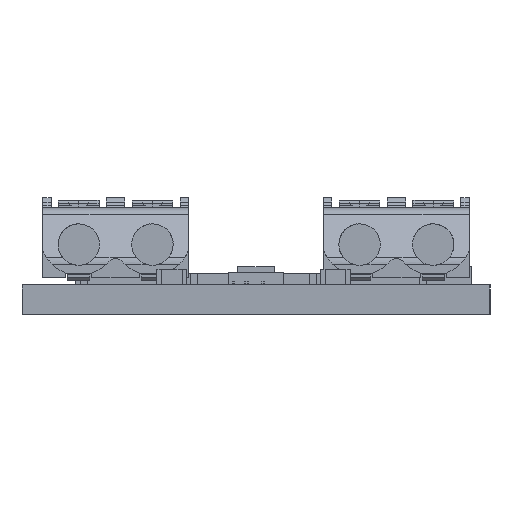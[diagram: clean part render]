
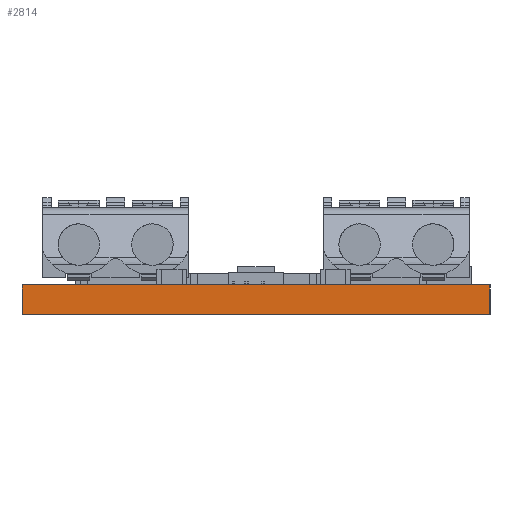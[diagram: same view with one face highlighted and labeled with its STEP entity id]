
A CAD part, left-side view. The second image highlights one B-rep face of the part: STEP entity #2814.
In plain terms, the highlighted planar face has unit normal (-1, 0, 0).
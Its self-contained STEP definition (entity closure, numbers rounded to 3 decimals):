
#555=DIRECTION('',(0.,-1.,0.));
#556=VECTOR('',#555,25.4);
#557=CARTESIAN_POINT('',(-142.875,12.7,0.));
#558=LINE('',#557,#556);
#786=DIRECTION('',(0.,0.,1.));
#787=VECTOR('',#786,1.6);
#788=CARTESIAN_POINT('',(-142.875,-12.7,0.));
#789=LINE('',#788,#787);
#793=DIRECTION('',(0.,0.,1.));
#794=VECTOR('',#793,1.6);
#795=CARTESIAN_POINT('',(-142.875,12.7,0.));
#796=LINE('',#795,#794);
#1451=DIRECTION('',(0.,-1.,0.));
#1452=VECTOR('',#1451,25.4);
#1453=CARTESIAN_POINT('',(-142.875,12.7,1.6));
#1454=LINE('',#1453,#1452);
#2144=CARTESIAN_POINT('',(-142.875,12.7,0.));
#2145=VERTEX_POINT('',#2144);
#2146=CARTESIAN_POINT('',(-142.875,-12.7,0.));
#2147=VERTEX_POINT('',#2146);
#2332=CARTESIAN_POINT('',(-142.875,12.7,1.6));
#2333=VERTEX_POINT('',#2332);
#2334=CARTESIAN_POINT('',(-142.875,-12.7,1.6));
#2335=VERTEX_POINT('',#2334);
#2801=CARTESIAN_POINT('',(-142.875,12.7,0.));
#2802=DIRECTION('',(-1.,0.,0.));
#2803=DIRECTION('',(0.,-1.,0.));
#2804=AXIS2_PLACEMENT_3D('',#2801,#2802,#2803);
#2805=PLANE('',#2804);
#2806=ORIENTED_EDGE('',*,*,#2525,.F.);
#2808=ORIENTED_EDGE('',*,*,#2807,.T.);
#2810=ORIENTED_EDGE('',*,*,#2809,.T.);
#2811=ORIENTED_EDGE('',*,*,#2793,.F.);
#2812=EDGE_LOOP('',(#2806,#2808,#2810,#2811));
#2813=FACE_OUTER_BOUND('',#2812,.F.);
#2525=EDGE_CURVE('',#2145,#2147,#558,.T.);
#2793=EDGE_CURVE('',#2147,#2335,#789,.T.);
#2807=EDGE_CURVE('',#2145,#2333,#796,.T.);
#2809=EDGE_CURVE('',#2333,#2335,#1454,.T.);
#2814=ADVANCED_FACE('',(#2813),#2805,.T.);
